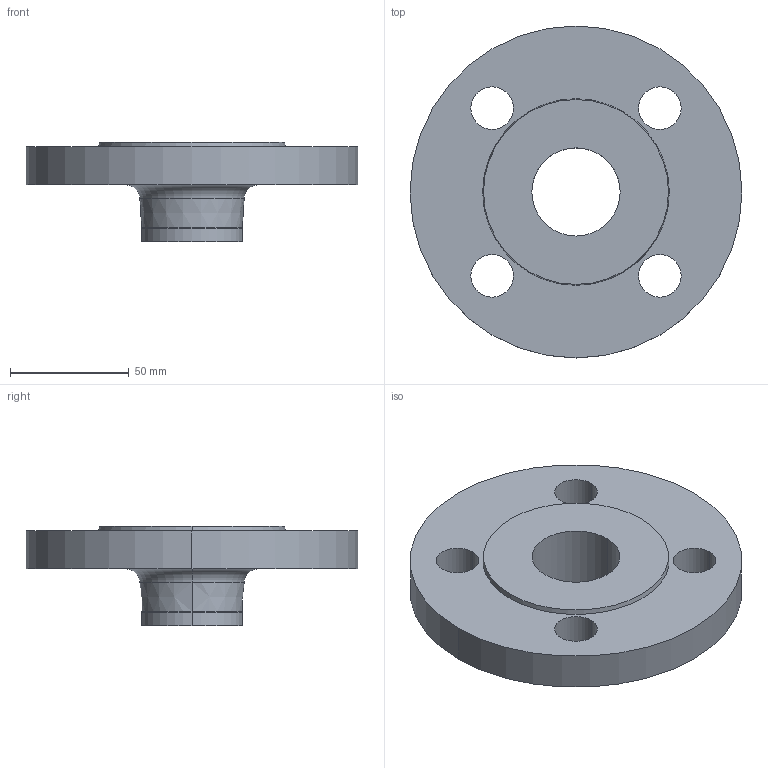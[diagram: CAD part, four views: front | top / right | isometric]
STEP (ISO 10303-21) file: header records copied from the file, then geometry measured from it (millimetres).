
FILE_DESCRIPTION (( 'STEP AP214' ), '1' );
FILE_NAME ('PN40 DN32 Type 11 - Type B Face.STEP', '2018-12-30T00:00:37', ( '' ), ( '' ), 'SwSTEP 2.0', 'SolidWorks 2019', '' );
FILE_SCHEMA (( 'AUTOMOTIVE_DESIGN' ));
Length unit declared in the file: millimetre
Products named in the file (1): PN40 DN32 Type 11 - Type B Face
Bounding box: 140 x 140 x 42 mm (x, y, z)
Volume: 230328.6 mm3; surface area: 45368.1 mm2
Topology: 1 solids, 1 shells, 26 faces, 60 edges, 38 vertices
Faces by surface type: cylinder 14, cone 4, torus 4, plane 4
Entity records: 812 total; most frequent: DIRECTION 156, CARTESIAN_POINT 125, ORIENTED_EDGE 120, AXIS2_PLACEMENT_3D 69, EDGE_CURVE 60, CIRCLE 42, VERTEX_POINT 38, EDGE_LOOP 38
